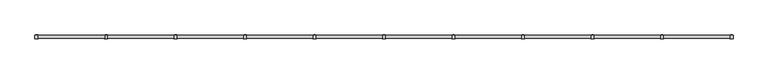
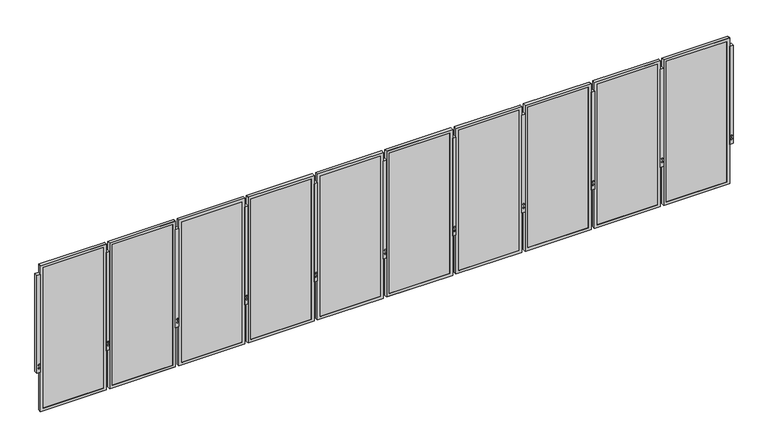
"""IFC4 building model written with IfcOpenShell, lengths in millimetres: railing geometry."""

from ifc_helpers import new_model, si_unit, frame, origin, place, context, project, spatial, polyline, outline, extrude, faceted_brep, source, transform, mapped, element, save


def railing_a62e751d(model_context):
    return source(origin(), model_context, "Body", "SolidModel", [
        extrude(outline(polyline([(-3166.7085435, -40178.9920964), (-3115.9085435, -40178.9920964), (-3115.9085435, -40229.7920964), (-3166.7085435, -40229.7920964), (-3166.7085435, -40178.9920964)])), frame((0.0, 0.0, -609.6), z_axis=(0.0, 0.0, 1.0), x_axis=(1.0, 0.0, 0.0)), (0.0, 0.0, 1.0), 1524.0),
        extrude(outline(polyline([(-530.1129981, -3151.7291137), (-542.3802561, -3148.4421118), (-545.667258, -3136.1748538), (-536.6870019, -3127.1945977), (-524.4197439, -3130.4815996), (-521.132742, -3142.7488576), (-530.1129981, -3151.7291137)])), frame((0.0, -40231.6387842, 0.0), z_axis=(0.0, 1.0, 0.0), x_axis=(0.0, 0.0, 1.0)), (0.0, 0.0, 1.0), 54.4933756),
        extrude(outline(polyline([(-479.3129981, -3151.7291137), (-491.5802561, -3148.4421118), (-494.867258, -3136.1748538), (-485.8870019, -3127.1945977), (-473.6197439, -3130.4815996), (-470.332742, -3142.7488576), (-479.3129981, -3151.7291137)])), frame((0.0, -40231.6387842, 0.0), z_axis=(0.0, 1.0, 0.0), x_axis=(0.0, 0.0, 1.0)), (0.0, 0.0, 1.0), 54.4933756),
        faceted_brep([(-4133.1129969, -40226.1852964, -1222.375), (-3164.7379969, -40226.1852964, -1222.375), (-3164.7379969, -40226.1852964, 1044.575), (-4133.1129969, -40226.1852964, 1044.575), (-4091.8379969, -40226.1852964, 1003.3), (-3206.0129969, -40226.1852964, 1003.3), (-3206.0129969, -40226.1852964, -1181.1), (-4091.8379969, -40226.1852964, -1181.1), (-4091.8379969, -40223.4420964, 1003.3), (-4091.8379969, -40223.4420964, -1181.1), (-4133.1129969, -40182.3119999, 1044.575), (-4133.1129969, -40182.3119999, -1222.375), (-4129.9379969, -40182.3119999, 1041.4), (-4129.9379969, -40223.4420964, 1041.4), (-4129.9379969, -40223.4420964, -1219.2), (-4129.9379969, -40182.3119999, -1219.2), (-3206.0129969, -40223.4420964, -1181.1), (-3164.7379969, -40182.3119999, -1222.375), (-3167.9129969, -40223.4420964, -1219.2), (-3167.9129969, -40182.3119999, -1219.2), (-3206.0129969, -40223.4420964, 1003.3), (-3164.7379969, -40182.3119999, 1044.575), (-3167.9129969, -40223.4420964, 1041.4), (-3167.9129969, -40182.3119999, 1041.4)], [[[0, 1, 2, 3], [4, 5, 6, 7]], [[8, 4, 7, 9]], [[3, 10, 11, 0]], [[12, 13, 14, 15]], [[9, 7, 6, 16]], [[0, 11, 17, 1]], [[15, 14, 18, 19]], [[16, 6, 5, 20]], [[1, 17, 21, 2]], [[19, 18, 22, 23]], [[20, 5, 4, 8]], [[10, 21, 17, 11], [15, 19, 23, 12]], [[2, 21, 10, 3]], [[13, 22, 18, 14], [9, 16, 20, 8]], [[23, 22, 13, 12]]]),
        extrude(outline(polyline([(-4129.9379969, -40213.9170964), (-3167.9129969, -40213.9170964), (-3167.9129969, -40223.4420964), (-4129.9379969, -40223.4420964), (-4129.9379969, -40213.9170964)])), frame((0.0, 0.0, -1219.2), z_axis=(0.0, 0.0, 1.0), x_axis=(1.0, 0.0, 0.0)), (0.0, 0.0, 1.0), 2260.6),
        extrude(outline(polyline([(-4184.2960435, -40178.9920964), (-4133.4960435, -40178.9920964), (-4133.4960435, -40229.7920964), (-4184.2960435, -40229.7920964), (-4184.2960435, -40178.9920964)])), frame((0.0, 0.0, -609.6), z_axis=(0.0, 0.0, 1.0), x_axis=(1.0, 0.0, 0.0)), (0.0, 0.0, 1.0), 1524.0),
        extrude(outline(polyline([(-530.1129981, -4169.3166137), (-542.3802561, -4166.0296118), (-545.667258, -4153.7623538), (-536.6870019, -4144.7820977), (-524.4197439, -4148.0690996), (-521.132742, -4160.3363576), (-530.1129981, -4169.3166137)])), frame((0.0, -40231.6387842, 0.0), z_axis=(0.0, 1.0, 0.0), x_axis=(0.0, 0.0, 1.0)), (0.0, 0.0, 1.0), 54.4933756),
        extrude(outline(polyline([(-479.3129981, -4169.3166137), (-491.5802561, -4166.0296118), (-494.867258, -4153.7623538), (-485.8870019, -4144.7820977), (-473.6197439, -4148.0690996), (-470.332742, -4160.3363576), (-479.3129981, -4169.3166137)])), frame((0.0, -40231.6387842, 0.0), z_axis=(0.0, 1.0, 0.0), x_axis=(0.0, 0.0, 1.0)), (0.0, 0.0, 1.0), 54.4933756),
        faceted_brep([(-5150.7004969, -40226.1852964, -1222.375), (-4182.3254969, -40226.1852964, -1222.375), (-4182.3254969, -40226.1852964, 1044.575), (-5150.7004969, -40226.1852964, 1044.575), (-5109.4254969, -40226.1852964, 1003.3), (-4223.6004969, -40226.1852964, 1003.3), (-4223.6004969, -40226.1852964, -1181.1), (-5109.4254969, -40226.1852964, -1181.1), (-5109.4254969, -40223.4420964, 1003.3), (-5109.4254969, -40223.4420964, -1181.1), (-5150.7004969, -40182.3119999, 1044.575), (-5150.7004969, -40182.3119999, -1222.375), (-5147.5254969, -40182.3119999, 1041.4), (-5147.5254969, -40223.4420964, 1041.4), (-5147.5254969, -40223.4420964, -1219.2), (-5147.5254969, -40182.3119999, -1219.2), (-4223.6004969, -40223.4420964, -1181.1), (-4182.3254969, -40182.3119999, -1222.375), (-4185.5004969, -40223.4420964, -1219.2), (-4185.5004969, -40182.3119999, -1219.2), (-4223.6004969, -40223.4420964, 1003.3), (-4182.3254969, -40182.3119999, 1044.575), (-4185.5004969, -40223.4420964, 1041.4), (-4185.5004969, -40182.3119999, 1041.4)], [[[0, 1, 2, 3], [4, 5, 6, 7]], [[8, 4, 7, 9]], [[3, 10, 11, 0]], [[12, 13, 14, 15]], [[9, 7, 6, 16]], [[0, 11, 17, 1]], [[15, 14, 18, 19]], [[16, 6, 5, 20]], [[1, 17, 21, 2]], [[19, 18, 22, 23]], [[20, 5, 4, 8]], [[10, 21, 17, 11], [15, 19, 23, 12]], [[2, 21, 10, 3]], [[13, 22, 18, 14], [9, 16, 20, 8]], [[23, 22, 13, 12]]]),
        extrude(outline(polyline([(-5147.5254969, -40213.9170964), (-4185.5004969, -40213.9170964), (-4185.5004969, -40223.4420964), (-5147.5254969, -40223.4420964), (-5147.5254969, -40213.9170964)])), frame((0.0, 0.0, -1219.2), z_axis=(0.0, 0.0, 1.0), x_axis=(1.0, 0.0, 0.0)), (0.0, 0.0, 1.0), 2260.6),
        extrude(outline(polyline([(-5201.8835435, -40178.9920964), (-5151.0835435, -40178.9920964), (-5151.0835435, -40229.7920964), (-5201.8835435, -40229.7920964), (-5201.8835435, -40178.9920964)])), frame((0.0, 0.0, -609.6), z_axis=(0.0, 0.0, 1.0), x_axis=(1.0, 0.0, 0.0)), (0.0, 0.0, 1.0), 1524.0),
        extrude(outline(polyline([(-530.1129981, -5186.9041137), (-542.3802561, -5183.6171118), (-545.667258, -5171.3498538), (-536.6870019, -5162.3695977), (-524.4197439, -5165.6565996), (-521.132742, -5177.9238576), (-530.1129981, -5186.9041137)])), frame((0.0, -40231.6387842, 0.0), z_axis=(0.0, 1.0, 0.0), x_axis=(0.0, 0.0, 1.0)), (0.0, 0.0, 1.0), 54.4933756),
        extrude(outline(polyline([(-479.3129981, -5186.9041137), (-491.5802561, -5183.6171118), (-494.867258, -5171.3498538), (-485.8870019, -5162.3695977), (-473.6197439, -5165.6565996), (-470.332742, -5177.9238576), (-479.3129981, -5186.9041137)])), frame((0.0, -40231.6387842, 0.0), z_axis=(0.0, 1.0, 0.0), x_axis=(0.0, 0.0, 1.0)), (0.0, 0.0, 1.0), 54.4933756),
        faceted_brep([(-6168.2879969, -40226.1852964, -1222.375), (-5199.9129969, -40226.1852964, -1222.375), (-5199.9129969, -40226.1852964, 1044.575), (-6168.2879969, -40226.1852964, 1044.575), (-6127.0129969, -40226.1852964, 1003.3), (-5241.1879969, -40226.1852964, 1003.3), (-5241.1879969, -40226.1852964, -1181.1), (-6127.0129969, -40226.1852964, -1181.1), (-6127.0129969, -40223.4420964, 1003.3), (-6127.0129969, -40223.4420964, -1181.1), (-6168.2879969, -40182.3119999, 1044.575), (-6168.2879969, -40182.3119999, -1222.375), (-6165.1129969, -40182.3119999, 1041.4), (-6165.1129969, -40223.4420964, 1041.4), (-6165.1129969, -40223.4420964, -1219.2), (-6165.1129969, -40182.3119999, -1219.2), (-5241.1879969, -40223.4420964, -1181.1), (-5199.9129969, -40182.3119999, -1222.375), (-5203.0879969, -40223.4420964, -1219.2), (-5203.0879969, -40182.3119999, -1219.2), (-5241.1879969, -40223.4420964, 1003.3), (-5199.9129969, -40182.3119999, 1044.575), (-5203.0879969, -40223.4420964, 1041.4), (-5203.0879969, -40182.3119999, 1041.4)], [[[0, 1, 2, 3], [4, 5, 6, 7]], [[8, 4, 7, 9]], [[3, 10, 11, 0]], [[12, 13, 14, 15]], [[9, 7, 6, 16]], [[0, 11, 17, 1]], [[15, 14, 18, 19]], [[16, 6, 5, 20]], [[1, 17, 21, 2]], [[19, 18, 22, 23]], [[20, 5, 4, 8]], [[10, 21, 17, 11], [15, 19, 23, 12]], [[2, 21, 10, 3]], [[13, 22, 18, 14], [9, 16, 20, 8]], [[23, 22, 13, 12]]]),
        extrude(outline(polyline([(-6165.1129969, -40213.9170964), (-5203.0879969, -40213.9170964), (-5203.0879969, -40223.4420964), (-6165.1129969, -40223.4420964), (-6165.1129969, -40213.9170964)])), frame((0.0, 0.0, -1219.2), z_axis=(0.0, 0.0, 1.0), x_axis=(1.0, 0.0, 0.0)), (0.0, 0.0, 1.0), 2260.6),
        extrude(outline(polyline([(-6219.4710435, -40178.9920964), (-6168.6710435, -40178.9920964), (-6168.6710435, -40229.7920964), (-6219.4710435, -40229.7920964), (-6219.4710435, -40178.9920964)])), frame((0.0, 0.0, -609.6), z_axis=(0.0, 0.0, 1.0), x_axis=(1.0, 0.0, 0.0)), (0.0, 0.0, 1.0), 1524.0),
        extrude(outline(polyline([(-530.1129981, -6204.4916137), (-542.3802561, -6201.2046118), (-545.667258, -6188.9373538), (-536.6870019, -6179.9570977), (-524.4197439, -6183.2440996), (-521.132742, -6195.5113576), (-530.1129981, -6204.4916137)])), frame((0.0, -40231.6387842, 0.0), z_axis=(0.0, 1.0, 0.0), x_axis=(0.0, 0.0, 1.0)), (0.0, 0.0, 1.0), 54.4933756),
        extrude(outline(polyline([(-479.3129981, -6204.4916137), (-491.5802561, -6201.2046118), (-494.867258, -6188.9373538), (-485.8870019, -6179.9570977), (-473.6197439, -6183.2440996), (-470.332742, -6195.5113576), (-479.3129981, -6204.4916137)])), frame((0.0, -40231.6387842, 0.0), z_axis=(0.0, 1.0, 0.0), x_axis=(0.0, 0.0, 1.0)), (0.0, 0.0, 1.0), 54.4933756),
        faceted_brep([(-7185.8754969, -40226.1852964, -1222.375), (-6217.5004969, -40226.1852964, -1222.375), (-6217.5004969, -40226.1852964, 1044.575), (-7185.8754969, -40226.1852964, 1044.575), (-7144.6004969, -40226.1852964, 1003.3), (-6258.7754969, -40226.1852964, 1003.3), (-6258.7754969, -40226.1852964, -1181.1), (-7144.6004969, -40226.1852964, -1181.1), (-7144.6004969, -40223.4420964, 1003.3), (-7144.6004969, -40223.4420964, -1181.1), (-7185.8754969, -40182.3119999, 1044.575), (-7185.8754969, -40182.3119999, -1222.375), (-7182.7004969, -40182.3119999, 1041.4), (-7182.7004969, -40223.4420964, 1041.4), (-7182.7004969, -40223.4420964, -1219.2), (-7182.7004969, -40182.3119999, -1219.2), (-6258.7754969, -40223.4420964, -1181.1), (-6217.5004969, -40182.3119999, -1222.375), (-6220.6754969, -40223.4420964, -1219.2), (-6220.6754969, -40182.3119999, -1219.2), (-6258.7754969, -40223.4420964, 1003.3), (-6217.5004969, -40182.3119999, 1044.575), (-6220.6754969, -40223.4420964, 1041.4), (-6220.6754969, -40182.3119999, 1041.4)], [[[0, 1, 2, 3], [4, 5, 6, 7]], [[8, 4, 7, 9]], [[3, 10, 11, 0]], [[12, 13, 14, 15]], [[9, 7, 6, 16]], [[0, 11, 17, 1]], [[15, 14, 18, 19]], [[16, 6, 5, 20]], [[1, 17, 21, 2]], [[19, 18, 22, 23]], [[20, 5, 4, 8]], [[10, 21, 17, 11], [15, 19, 23, 12]], [[2, 21, 10, 3]], [[13, 22, 18, 14], [9, 16, 20, 8]], [[23, 22, 13, 12]]]),
        extrude(outline(polyline([(-7182.7004969, -40213.9170964), (-6220.6754969, -40213.9170964), (-6220.6754969, -40223.4420964), (-7182.7004969, -40223.4420964), (-7182.7004969, -40213.9170964)])), frame((0.0, 0.0, -1219.2), z_axis=(0.0, 0.0, 1.0), x_axis=(1.0, 0.0, 0.0)), (0.0, 0.0, 1.0), 2260.6),
        extrude(outline(polyline([(-7237.0585435, -40178.9920964), (-7186.2585435, -40178.9920964), (-7186.2585435, -40229.7920964), (-7237.0585435, -40229.7920964), (-7237.0585435, -40178.9920964)])), frame((0.0, 0.0, -609.6), z_axis=(0.0, 0.0, 1.0), x_axis=(1.0, 0.0, 0.0)), (0.0, 0.0, 1.0), 1524.0),
        extrude(outline(polyline([(-530.1129981, -7222.0791137), (-542.3802561, -7218.7921118), (-545.667258, -7206.5248538), (-536.6870019, -7197.5445977), (-524.4197439, -7200.8315996), (-521.132742, -7213.0988576), (-530.1129981, -7222.0791137)])), frame((0.0, -40231.6387842, 0.0), z_axis=(0.0, 1.0, 0.0), x_axis=(0.0, 0.0, 1.0)), (0.0, 0.0, 1.0), 54.4933756),
        extrude(outline(polyline([(-479.3129981, -7222.0791137), (-491.5802561, -7218.7921118), (-494.867258, -7206.5248538), (-485.8870019, -7197.5445977), (-473.6197439, -7200.8315996), (-470.332742, -7213.0988576), (-479.3129981, -7222.0791137)])), frame((0.0, -40231.6387842, 0.0), z_axis=(0.0, 1.0, 0.0), x_axis=(0.0, 0.0, 1.0)), (0.0, 0.0, 1.0), 54.4933756),
        faceted_brep([(-8203.4629969, -40226.1852964, -1222.375), (-7235.0879969, -40226.1852964, -1222.375), (-7235.0879969, -40226.1852964, 1044.575), (-8203.4629969, -40226.1852964, 1044.575), (-8162.1879969, -40226.1852964, 1003.3), (-7276.3629969, -40226.1852964, 1003.3), (-7276.3629969, -40226.1852964, -1181.1), (-8162.1879969, -40226.1852964, -1181.1), (-8162.1879969, -40223.4420964, 1003.3), (-8162.1879969, -40223.4420964, -1181.1), (-8203.4629969, -40182.3119999, 1044.575), (-8203.4629969, -40182.3119999, -1222.375), (-8200.2879969, -40182.3119999, 1041.4), (-8200.2879969, -40223.4420964, 1041.4), (-8200.2879969, -40223.4420964, -1219.2), (-8200.2879969, -40182.3119999, -1219.2), (-7276.3629969, -40223.4420964, -1181.1), (-7235.0879969, -40182.3119999, -1222.375), (-7238.2629969, -40223.4420964, -1219.2), (-7238.2629969, -40182.3119999, -1219.2), (-7276.3629969, -40223.4420964, 1003.3), (-7235.0879969, -40182.3119999, 1044.575), (-7238.2629969, -40223.4420964, 1041.4), (-7238.2629969, -40182.3119999, 1041.4)], [[[0, 1, 2, 3], [4, 5, 6, 7]], [[8, 4, 7, 9]], [[3, 10, 11, 0]], [[12, 13, 14, 15]], [[9, 7, 6, 16]], [[0, 11, 17, 1]], [[15, 14, 18, 19]], [[16, 6, 5, 20]], [[1, 17, 21, 2]], [[19, 18, 22, 23]], [[20, 5, 4, 8]], [[10, 21, 17, 11], [15, 19, 23, 12]], [[2, 21, 10, 3]], [[13, 22, 18, 14], [9, 16, 20, 8]], [[23, 22, 13, 12]]]),
        extrude(outline(polyline([(-8200.2879969, -40213.9170964), (-7238.2629969, -40213.9170964), (-7238.2629969, -40223.4420964), (-8200.2879969, -40223.4420964), (-8200.2879969, -40213.9170964)])), frame((0.0, 0.0, -1219.2), z_axis=(0.0, 0.0, 1.0), x_axis=(1.0, 0.0, 0.0)), (0.0, 0.0, 1.0), 2260.6),
        extrude(outline(polyline([(-8254.6460435, -40178.9920964), (-8203.8460435, -40178.9920964), (-8203.8460435, -40229.7920964), (-8254.6460435, -40229.7920964), (-8254.6460435, -40178.9920964)])), frame((0.0, 0.0, -609.6), z_axis=(0.0, 0.0, 1.0), x_axis=(1.0, 0.0, 0.0)), (0.0, 0.0, 1.0), 1524.0),
        extrude(outline(polyline([(-530.1129981, -8239.6666137), (-542.3802561, -8236.3796118), (-545.667258, -8224.1123538), (-536.6870019, -8215.1320977), (-524.4197439, -8218.4190996), (-521.132742, -8230.6863576), (-530.1129981, -8239.6666137)])), frame((0.0, -40231.6387842, 0.0), z_axis=(0.0, 1.0, 0.0), x_axis=(0.0, 0.0, 1.0)), (0.0, 0.0, 1.0), 54.4933756),
        extrude(outline(polyline([(-479.3129981, -8239.6666137), (-491.5802561, -8236.3796118), (-494.867258, -8224.1123538), (-485.8870019, -8215.1320977), (-473.6197439, -8218.4190996), (-470.332742, -8230.6863576), (-479.3129981, -8239.6666137)])), frame((0.0, -40231.6387842, 0.0), z_axis=(0.0, 1.0, 0.0), x_axis=(0.0, 0.0, 1.0)), (0.0, 0.0, 1.0), 54.4933756),
        faceted_brep([(-9221.0504969, -40226.1852964, -1222.375), (-8252.6754969, -40226.1852964, -1222.375), (-8252.6754969, -40226.1852964, 1044.575), (-9221.0504969, -40226.1852964, 1044.575), (-9179.7754969, -40226.1852964, 1003.3), (-8293.9504969, -40226.1852964, 1003.3), (-8293.9504969, -40226.1852964, -1181.1), (-9179.7754969, -40226.1852964, -1181.1), (-9179.7754969, -40223.4420964, 1003.3), (-9179.7754969, -40223.4420964, -1181.1), (-9221.0504969, -40182.3119999, 1044.575), (-9221.0504969, -40182.3119999, -1222.375), (-9217.8754969, -40182.3119999, 1041.4), (-9217.8754969, -40223.4420964, 1041.4), (-9217.8754969, -40223.4420964, -1219.2), (-9217.8754969, -40182.3119999, -1219.2), (-8293.9504969, -40223.4420964, -1181.1), (-8252.6754969, -40182.3119999, -1222.375), (-8255.8504969, -40223.4420964, -1219.2), (-8255.8504969, -40182.3119999, -1219.2), (-8293.9504969, -40223.4420964, 1003.3), (-8252.6754969, -40182.3119999, 1044.575), (-8255.8504969, -40223.4420964, 1041.4), (-8255.8504969, -40182.3119999, 1041.4)], [[[0, 1, 2, 3], [4, 5, 6, 7]], [[8, 4, 7, 9]], [[3, 10, 11, 0]], [[12, 13, 14, 15]], [[9, 7, 6, 16]], [[0, 11, 17, 1]], [[15, 14, 18, 19]], [[16, 6, 5, 20]], [[1, 17, 21, 2]], [[19, 18, 22, 23]], [[20, 5, 4, 8]], [[10, 21, 17, 11], [15, 19, 23, 12]], [[2, 21, 10, 3]], [[13, 22, 18, 14], [9, 16, 20, 8]], [[23, 22, 13, 12]]]),
        extrude(outline(polyline([(-9217.8754969, -40213.9170964), (-8255.8504969, -40213.9170964), (-8255.8504969, -40223.4420964), (-9217.8754969, -40223.4420964), (-9217.8754969, -40213.9170964)])), frame((0.0, 0.0, -1219.2), z_axis=(0.0, 0.0, 1.0), x_axis=(1.0, 0.0, 0.0)), (0.0, 0.0, 1.0), 2260.6),
        extrude(outline(polyline([(-9272.2335435, -40178.9920964), (-9221.4335435, -40178.9920964), (-9221.4335435, -40229.7920964), (-9272.2335435, -40229.7920964), (-9272.2335435, -40178.9920964)])), frame((0.0, 0.0, -609.6), z_axis=(0.0, 0.0, 1.0), x_axis=(1.0, 0.0, 0.0)), (0.0, 0.0, 1.0), 1524.0),
        extrude(outline(polyline([(-530.1129981, -9257.2541137), (-542.3802561, -9253.9671118), (-545.667258, -9241.6998538), (-536.6870019, -9232.7195977), (-524.4197439, -9236.0065996), (-521.132742, -9248.2738576), (-530.1129981, -9257.2541137)])), frame((0.0, -40231.6387842, 0.0), z_axis=(0.0, 1.0, 0.0), x_axis=(0.0, 0.0, 1.0)), (0.0, 0.0, 1.0), 54.4933756),
        extrude(outline(polyline([(-479.3129981, -9257.2541137), (-491.5802561, -9253.9671118), (-494.867258, -9241.6998538), (-485.8870019, -9232.7195977), (-473.6197439, -9236.0065996), (-470.332742, -9248.2738576), (-479.3129981, -9257.2541137)])), frame((0.0, -40231.6387842, 0.0), z_axis=(0.0, 1.0, 0.0), x_axis=(0.0, 0.0, 1.0)), (0.0, 0.0, 1.0), 54.4933756),
        faceted_brep([(-10238.6379969, -40226.1852964, -1222.375), (-9270.2629969, -40226.1852964, -1222.375), (-9270.2629969, -40226.1852964, 1044.575), (-10238.6379969, -40226.1852964, 1044.575), (-10197.3629969, -40226.1852964, 1003.3), (-9311.5379969, -40226.1852964, 1003.3), (-9311.5379969, -40226.1852964, -1181.1), (-10197.3629969, -40226.1852964, -1181.1), (-10197.3629969, -40223.4420964, 1003.3), (-10197.3629969, -40223.4420964, -1181.1), (-10238.6379969, -40182.3119999, 1044.575), (-10238.6379969, -40182.3119999, -1222.375), (-10235.4629969, -40182.3119999, 1041.4), (-10235.4629969, -40223.4420964, 1041.4), (-10235.4629969, -40223.4420964, -1219.2), (-10235.4629969, -40182.3119999, -1219.2), (-9311.5379969, -40223.4420964, -1181.1), (-9270.2629969, -40182.3119999, -1222.375), (-9273.4379969, -40223.4420964, -1219.2), (-9273.4379969, -40182.3119999, -1219.2), (-9311.5379969, -40223.4420964, 1003.3), (-9270.2629969, -40182.3119999, 1044.575), (-9273.4379969, -40223.4420964, 1041.4), (-9273.4379969, -40182.3119999, 1041.4)], [[[0, 1, 2, 3], [4, 5, 6, 7]], [[8, 4, 7, 9]], [[3, 10, 11, 0]], [[12, 13, 14, 15]], [[9, 7, 6, 16]], [[0, 11, 17, 1]], [[15, 14, 18, 19]], [[16, 6, 5, 20]], [[1, 17, 21, 2]], [[19, 18, 22, 23]], [[20, 5, 4, 8]], [[10, 21, 17, 11], [15, 19, 23, 12]], [[2, 21, 10, 3]], [[13, 22, 18, 14], [9, 16, 20, 8]], [[23, 22, 13, 12]]]),
        extrude(outline(polyline([(-10235.4629969, -40213.9170964), (-9273.4379969, -40213.9170964), (-9273.4379969, -40223.4420964), (-10235.4629969, -40223.4420964), (-10235.4629969, -40213.9170964)])), frame((0.0, 0.0, -1219.2), z_axis=(0.0, 0.0, 1.0), x_axis=(1.0, 0.0, 0.0)), (0.0, 0.0, 1.0), 2260.6),
        extrude(outline(polyline([(-10289.8210435, -40178.9920964), (-10239.0210435, -40178.9920964), (-10239.0210435, -40229.7920964), (-10289.8210435, -40229.7920964), (-10289.8210435, -40178.9920964)])), frame((0.0, 0.0, -609.6), z_axis=(0.0, 0.0, 1.0), x_axis=(1.0, 0.0, 0.0)), (0.0, 0.0, 1.0), 1524.0),
        extrude(outline(polyline([(-530.1129981, -10274.8416137), (-542.3802561, -10271.5546118), (-545.667258, -10259.2873538), (-536.6870019, -10250.3070977), (-524.4197439, -10253.5940996), (-521.132742, -10265.8613576), (-530.1129981, -10274.8416137)])), frame((0.0, -40231.6387842, 0.0), z_axis=(0.0, 1.0, 0.0), x_axis=(0.0, 0.0, 1.0)), (0.0, 0.0, 1.0), 54.4933756),
        extrude(outline(polyline([(-479.3129981, -10274.8416137), (-491.5802561, -10271.5546118), (-494.867258, -10259.2873538), (-485.8870019, -10250.3070977), (-473.6197439, -10253.5940996), (-470.332742, -10265.8613576), (-479.3129981, -10274.8416137)])), frame((0.0, -40231.6387842, 0.0), z_axis=(0.0, 1.0, 0.0), x_axis=(0.0, 0.0, 1.0)), (0.0, 0.0, 1.0), 54.4933756),
        faceted_brep([(-11256.2254969, -40226.1852964, -1222.375), (-10287.8504969, -40226.1852964, -1222.375), (-10287.8504969, -40226.1852964, 1044.575), (-11256.2254969, -40226.1852964, 1044.575), (-11214.9504969, -40226.1852964, 1003.3), (-10329.1254969, -40226.1852964, 1003.3), (-10329.1254969, -40226.1852964, -1181.1), (-11214.9504969, -40226.1852964, -1181.1), (-11214.9504969, -40223.4420964, 1003.3), (-11214.9504969, -40223.4420964, -1181.1), (-11256.2254969, -40182.3119999, 1044.575), (-11256.2254969, -40182.3119999, -1222.375), (-11253.0504969, -40182.3119999, 1041.4), (-11253.0504969, -40223.4420964, 1041.4), (-11253.0504969, -40223.4420964, -1219.2), (-11253.0504969, -40182.3119999, -1219.2), (-10329.1254969, -40223.4420964, -1181.1), (-10287.8504969, -40182.3119999, -1222.375), (-10291.0254969, -40223.4420964, -1219.2), (-10291.0254969, -40182.3119999, -1219.2), (-10329.1254969, -40223.4420964, 1003.3), (-10287.8504969, -40182.3119999, 1044.575), (-10291.0254969, -40223.4420964, 1041.4), (-10291.0254969, -40182.3119999, 1041.4)], [[[0, 1, 2, 3], [4, 5, 6, 7]], [[8, 4, 7, 9]], [[3, 10, 11, 0]], [[12, 13, 14, 15]], [[9, 7, 6, 16]], [[0, 11, 17, 1]], [[15, 14, 18, 19]], [[16, 6, 5, 20]], [[1, 17, 21, 2]], [[19, 18, 22, 23]], [[20, 5, 4, 8]], [[10, 21, 17, 11], [15, 19, 23, 12]], [[2, 21, 10, 3]], [[13, 22, 18, 14], [9, 16, 20, 8]], [[23, 22, 13, 12]]]),
        extrude(outline(polyline([(-11253.0504969, -40213.9170964), (-10291.0254969, -40213.9170964), (-10291.0254969, -40223.4420964), (-11253.0504969, -40223.4420964), (-11253.0504969, -40213.9170964)])), frame((0.0, 0.0, -1219.2), z_axis=(0.0, 0.0, 1.0), x_axis=(1.0, 0.0, 0.0)), (0.0, 0.0, 1.0), 2260.6),
        extrude(outline(polyline([(-11307.4085435, -40178.9920964), (-11256.6085435, -40178.9920964), (-11256.6085435, -40229.7920964), (-11307.4085435, -40229.7920964), (-11307.4085435, -40178.9920964)])), frame((0.0, 0.0, -609.6), z_axis=(0.0, 0.0, 1.0), x_axis=(1.0, 0.0, 0.0)), (0.0, 0.0, 1.0), 1524.0),
        extrude(outline(polyline([(-530.1129981, -11292.4291137), (-542.3802561, -11289.1421118), (-545.667258, -11276.8748538), (-536.6870019, -11267.8945977), (-524.4197439, -11271.1815996), (-521.132742, -11283.4488576), (-530.1129981, -11292.4291137)])), frame((0.0, -40231.6387842, 0.0), z_axis=(0.0, 1.0, 0.0), x_axis=(0.0, 0.0, 1.0)), (0.0, 0.0, 1.0), 54.4933756),
        extrude(outline(polyline([(-479.3129981, -11292.4291137), (-491.5802561, -11289.1421118), (-494.867258, -11276.8748538), (-485.8870019, -11267.8945977), (-473.6197439, -11271.1815996), (-470.332742, -11283.4488576), (-479.3129981, -11292.4291137)])), frame((0.0, -40231.6387842, 0.0), z_axis=(0.0, 1.0, 0.0), x_axis=(0.0, 0.0, 1.0)), (0.0, 0.0, 1.0), 54.4933756),
        faceted_brep([(-12273.8129969, -40226.1852964, -1222.375), (-11305.4379969, -40226.1852964, -1222.375), (-11305.4379969, -40226.1852964, 1044.575), (-12273.8129969, -40226.1852964, 1044.575), (-12232.5379969, -40226.1852964, 1003.3), (-11346.7129969, -40226.1852964, 1003.3), (-11346.7129969, -40226.1852964, -1181.1), (-12232.5379969, -40226.1852964, -1181.1), (-12232.5379969, -40223.4420964, 1003.3), (-12232.5379969, -40223.4420964, -1181.1), (-12273.8129969, -40182.3119999, 1044.575), (-12273.8129969, -40182.3119999, -1222.375), (-12270.6379969, -40182.3119999, 1041.4), (-12270.6379969, -40223.4420964, 1041.4), (-12270.6379969, -40223.4420964, -1219.2), (-12270.6379969, -40182.3119999, -1219.2), (-11346.7129969, -40223.4420964, -1181.1), (-11305.4379969, -40182.3119999, -1222.375), (-11308.6129969, -40223.4420964, -1219.2), (-11308.6129969, -40182.3119999, -1219.2), (-11346.7129969, -40223.4420964, 1003.3), (-11305.4379969, -40182.3119999, 1044.575), (-11308.6129969, -40223.4420964, 1041.4), (-11308.6129969, -40182.3119999, 1041.4)], [[[0, 1, 2, 3], [4, 5, 6, 7]], [[8, 4, 7, 9]], [[3, 10, 11, 0]], [[12, 13, 14, 15]], [[9, 7, 6, 16]], [[0, 11, 17, 1]], [[15, 14, 18, 19]], [[16, 6, 5, 20]], [[1, 17, 21, 2]], [[19, 18, 22, 23]], [[20, 5, 4, 8]], [[10, 21, 17, 11], [15, 19, 23, 12]], [[2, 21, 10, 3]], [[13, 22, 18, 14], [9, 16, 20, 8]], [[23, 22, 13, 12]]]),
        extrude(outline(polyline([(-12270.6379969, -40213.9170964), (-11308.6129969, -40213.9170964), (-11308.6129969, -40223.4420964), (-12270.6379969, -40223.4420964), (-12270.6379969, -40213.9170964)])), frame((0.0, 0.0, -1219.2), z_axis=(0.0, 0.0, 1.0), x_axis=(1.0, 0.0, 0.0)), (0.0, 0.0, 1.0), 2260.6),
        extrude(outline(polyline([(-12324.9960435, -40178.9920964), (-12274.1960435, -40178.9920964), (-12274.1960435, -40229.7920964), (-12324.9960435, -40229.7920964), (-12324.9960435, -40178.9920964)])), frame((0.0, 0.0, -609.6), z_axis=(0.0, 0.0, 1.0), x_axis=(1.0, 0.0, 0.0)), (0.0, 0.0, 1.0), 1524.0),
        extrude(outline(polyline([(-530.1129981, -12310.0166137), (-542.3802561, -12306.7296118), (-545.667258, -12294.4623538), (-536.6870019, -12285.4820977), (-524.4197439, -12288.7690996), (-521.132742, -12301.0363576), (-530.1129981, -12310.0166137)])), frame((0.0, -40231.6387842, 0.0), z_axis=(0.0, 1.0, 0.0), x_axis=(0.0, 0.0, 1.0)), (0.0, 0.0, 1.0), 54.4933756),
        extrude(outline(polyline([(-479.3129981, -12310.0166137), (-491.5802561, -12306.7296118), (-494.867258, -12294.4623538), (-485.8870019, -12285.4820977), (-473.6197439, -12288.7690996), (-470.332742, -12301.0363576), (-479.3129981, -12310.0166137)])), frame((0.0, -40231.6387842, 0.0), z_axis=(0.0, 1.0, 0.0), x_axis=(0.0, 0.0, 1.0)), (0.0, 0.0, 1.0), 54.4933756),
        faceted_brep([(-13291.4004969, -40226.1852964, -1222.375), (-12323.0254969, -40226.1852964, -1222.375), (-12323.0254969, -40226.1852964, 1044.575), (-13291.4004969, -40226.1852964, 1044.575), (-13250.1254969, -40226.1852964, 1003.3), (-12364.3004969, -40226.1852964, 1003.3), (-12364.3004969, -40226.1852964, -1181.1), (-13250.1254969, -40226.1852964, -1181.1), (-13250.1254969, -40223.4420964, 1003.3), (-13250.1254969, -40223.4420964, -1181.1), (-13291.4004969, -40182.3119999, 1044.575), (-13291.4004969, -40182.3119999, -1222.375), (-13288.2254969, -40182.3119999, 1041.4), (-13288.2254969, -40223.4420964, 1041.4), (-13288.2254969, -40223.4420964, -1219.2), (-13288.2254969, -40182.3119999, -1219.2), (-12364.3004969, -40223.4420964, -1181.1), (-12323.0254969, -40182.3119999, -1222.375), (-12326.2004969, -40223.4420964, -1219.2), (-12326.2004969, -40182.3119999, -1219.2), (-12364.3004969, -40223.4420964, 1003.3), (-12323.0254969, -40182.3119999, 1044.575), (-12326.2004969, -40223.4420964, 1041.4), (-12326.2004969, -40182.3119999, 1041.4)], [[[0, 1, 2, 3], [4, 5, 6, 7]], [[8, 4, 7, 9]], [[3, 10, 11, 0]], [[12, 13, 14, 15]], [[9, 7, 6, 16]], [[0, 11, 17, 1]], [[15, 14, 18, 19]], [[16, 6, 5, 20]], [[1, 17, 21, 2]], [[19, 18, 22, 23]], [[20, 5, 4, 8]], [[10, 21, 17, 11], [15, 19, 23, 12]], [[2, 21, 10, 3]], [[13, 22, 18, 14], [9, 16, 20, 8]], [[23, 22, 13, 12]]]),
        extrude(outline(polyline([(-13288.2254969, -40213.9170964), (-12326.2004969, -40213.9170964), (-12326.2004969, -40223.4420964), (-13288.2254969, -40223.4420964), (-13288.2254969, -40213.9170964)])), frame((0.0, 0.0, -1219.2), z_axis=(0.0, 0.0, 1.0), x_axis=(1.0, 0.0, 0.0)), (0.0, 0.0, 1.0), 2260.6),
        extrude(outline(polyline([(-13342.5835435, -40178.9920964), (-13291.7835435, -40178.9920964), (-13291.7835435, -40229.7920964), (-13342.5835435, -40229.7920964), (-13342.5835435, -40178.9920964)])), frame((0.0, 0.0, -609.6), z_axis=(0.0, 0.0, 1.0), x_axis=(1.0, 0.0, 0.0)), (0.0, 0.0, 1.0), 1524.0),
        extrude(outline(polyline([(-530.1129981, -13327.6041137), (-542.3802561, -13324.3171118), (-545.667258, -13312.0498538), (-536.6870019, -13303.0695977), (-524.4197439, -13306.3565996), (-521.132742, -13318.6238576), (-530.1129981, -13327.6041137)])), frame((0.0, -40231.6387842, 0.0), z_axis=(0.0, 1.0, 0.0), x_axis=(0.0, 0.0, 1.0)), (0.0, 0.0, 1.0), 54.4933756),
        extrude(outline(polyline([(-479.3129981, -13327.6041137), (-491.5802561, -13324.3171118), (-494.867258, -13312.0498538), (-485.8870019, -13303.0695977), (-473.6197439, -13306.3565996), (-470.332742, -13318.6238576), (-479.3129981, -13327.6041137)])), frame((0.0, -40231.6387842, 0.0), z_axis=(0.0, 1.0, 0.0), x_axis=(0.0, 0.0, 1.0)), (0.0, 0.0, 1.0), 54.4933756),
    ])


if __name__ == "__main__":
    model = new_model("IFC4")
    model_context = context("Model", 3, world=origin())
    ifc_project = project(units=[si_unit("LENGTHUNIT", "METRE", prefix="MILLI")], contexts=[model_context])
    site = spatial("IfcSite", under=ifc_project)
    building = spatial("IfcBuilding", under=site)
    placement = place(None, origin())
    railing_shape = railing_a62e751d(model_context)
    element("IfcRailing", 1, ObjectType="Railing - Amico Architectural - Expanded Mesh Railing - 1/2\" Circle - 11/16\" Staggered", at=placement, inside=building, context=model_context, shape_type="MappedRepresentation", body=[
        mapped(railing_shape, transform((0.0, 0.0, 0.0), x_axis=(1.0, 0.0, 0.0), y_axis=(0.0, 1.0, 0.0), z_axis=(0.0, 0.0, 1.0))),
    ])
    save(model, "model.ifc")
